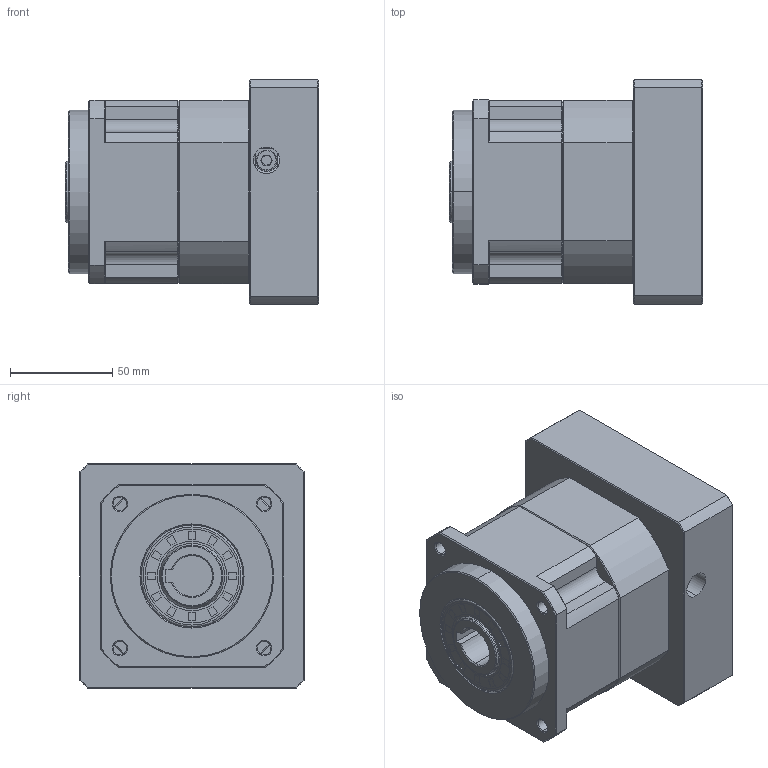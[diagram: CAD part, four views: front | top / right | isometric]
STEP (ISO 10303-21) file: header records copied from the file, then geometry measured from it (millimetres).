
FILE_DESCRIPTION (( 'STEP AP214' ), '1' );
FILE_NAME ('ZPB090-K20-L1-P1-19-95-130-M8.step', '2024-06-07T18:24:32', ( 'Windows 蚚誧' ), ( 'Organization' ), 'SwSTEP 2.0', 'SolidWorks 2016', '' );
FILE_SCHEMA (( 'AUTOMOTIVE_DESIGN' ));
Length unit declared in the file: millimetre
Products named in the file (1): ZPB090-K20-L1-P1-19-95-130-M8
Bounding box: 124 x 110 x 110 mm (x, y, z)
Surface area: 92091.2 mm2 (no closed solid volume)
Topology: 0 solids, 34 shells, 1792 faces, 4785 edges, 3060 vertices
Faces by surface type: plane 926, bspline 383, cone 270, cylinder 213
Entity records: 86620 total; most frequent: CARTESIAN_POINT 40176, ORIENTED_EDGE 9550, DIRECTION 7344, EDGE_CURVE 4785, VECTOR 3174, LINE 3174, VERTEX_POINT 3060, AXIS2_PLACEMENT_3D 2085
